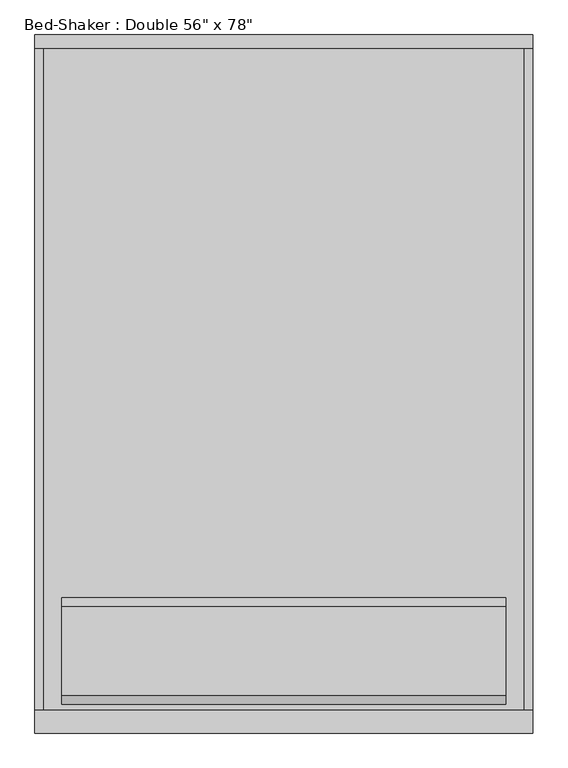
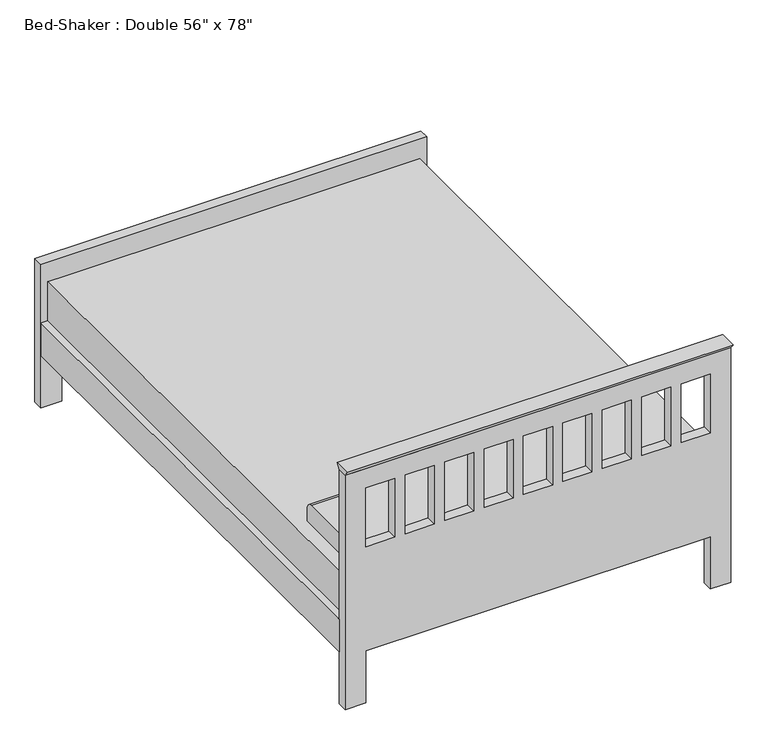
"""IFC4 building model written with IfcOpenShell, lengths in millimetres: furniture geometry."""

from ifc_helpers import new_model, si_unit, point, frame, frame_2d, origin, place, context, project, spatial, polyline, circle_curve, trimmed, segment, composite_curve, outline, extrude, source, transform, mapped, element, save


def furniture_097b173b(model_context):
    return source(origin(), model_context, "Body", "SweptSolid", [
        extrude(outline(polyline([(38.1, 914.4), (0.0, 914.4), (-13.8545455, 933.45), (51.9545455, 933.45), (38.1, 914.4)])), frame((-730.0365546, 0.0, 0.0), z_axis=(1.0, 0.0, 0.0), x_axis=(0.0, 1.0, 0.0)), (0.0, 0.0, 1.0), 1422.4533613),
        extrude(outline(composite_curve([segment(polyline([(373.2486637, 482.6), (68.4486637, 482.6), (68.4486637, 533.4)]), True, "CONTINUOUS"), segment(trimmed(circle_curve(frame_2d((93.8486637, 533.4)), 25.4), [point((68.4486637, 533.4))], [point((93.8486637, 558.8))], False, "CARTESIAN"), True, "CONTINUOUS"), segment(polyline([(93.8486637, 558.8), (347.8486637, 558.8)]), True, "CONTINUOUS"), segment(trimmed(circle_curve(frame_2d((347.8486637, 533.4)), 25.4), [point((347.8486637, 558.8))], [point((373.2486637, 533.4))], False, "CARTESIAN"), True, "CONTINUOUS"), segment(polyline([(373.2486637, 533.4), (373.2486637, 482.6)]), True, "CONTINUOUS")], self_intersect=False)), frame((-654.05, 0.0, 0.0), z_axis=(1.0, 0.0, 0.0), x_axis=(0.0, 1.0, 0.0)), (0.0, 0.0, 1.0), 1270.0),
        extrude(outline(polyline([(666.75, 38.1), (-704.85, 38.1), (-704.85, 1943.1), (666.75, 1943.1), (666.75, 38.1)])), frame((0.0, 0.0, 228.6), z_axis=(0.0, 0.0, 1.0), x_axis=(1.0, 0.0, 0.0)), (0.0, 0.0, 1.0), 254.0),
        extrude(outline(polyline([(666.75, 1943.1), (692.15, 1943.1), (692.15, 38.1), (666.75, 38.1), (666.75, 1943.1)])), frame((0.0, 0.0, 203.0994861), z_axis=(0.0, 0.0, 1.0), x_axis=(1.0, 0.0, 0.0)), (0.0, 0.0, 1.0), 127.0),
        extrude(outline(polyline([(-730.25, 1943.1), (-704.85, 1943.1), (-704.85, 38.1), (-730.25, 38.1), (-730.25, 1943.1)])), frame((0.0, 0.0, 203.5755296), z_axis=(0.0, 0.0, 1.0), x_axis=(1.0, 0.0, 0.0)), (0.0, 0.0, 1.0), 127.0),
        extrude(outline(polyline([(0.0, -654.05), (203.2, -654.05), (203.2, 615.95), (0.0, 615.95), (0.0, 692.15), (558.8, 692.15), (558.8, -730.25), (0.0, -730.25), (0.0, -654.05)])), frame((0.0, 1943.1, 0.0), z_axis=(0.0, 1.0, 0.0), x_axis=(0.0, 0.0, 1.0)), (0.0, 0.0, 1.0), 38.1),
        extrude(outline(polyline([(914.4, 692.4168067), (914.4, -730.0365546), (0.0, -730.0365546), (0.0, -654.05), (203.2, -654.05), (203.2, 615.95), (0.0, 615.95), (0.0, 692.4168067), (914.4, 692.4168067)]), holes=[polyline([(838.2, -546.8055556), (609.6, -546.8055556), (609.6, -654.05), (838.2, -654.05), (838.2, -546.8055556)]), polyline([(838.2, -401.4611111), (609.6, -401.4611111), (609.6, -508.7055556), (838.2, -508.7055556), (838.2, -401.4611111)]), polyline([(838.2, -256.1166667), (609.6, -256.1166667), (609.6, -363.3611111), (838.2, -363.3611111), (838.2, -256.1166667)]), polyline([(838.2, -110.7722222), (609.6, -110.7722222), (609.6, -218.0166667), (838.2, -218.0166667), (838.2, -110.7722222)]), polyline([(838.2, 179.9166667), (609.6, 179.9166667), (609.6, 72.6722222), (838.2, 72.6722222), (838.2, 179.9166667)]), polyline([(838.2, 325.2611111), (609.6, 325.2611111), (609.6, 218.0166667), (838.2, 218.0166667), (838.2, 325.2611111)]), polyline([(838.2, 470.6055556), (609.6, 470.6055556), (609.6, 363.3611111), (838.2, 363.3611111), (838.2, 470.6055556)]), polyline([(838.2, 615.95), (609.6, 615.95), (609.6, 508.7055556), (838.2, 508.7055556), (838.2, 615.95)]), polyline([(838.2, 34.5722222), (609.6, 34.5722222), (609.6, -72.6722222), (838.2, -72.6722222), (838.2, 34.5722222)])]), frame((0.0, 0.0, 0.0), z_axis=(0.0, 1.0, 0.0), x_axis=(0.0, 0.0, 1.0)), (0.0, 0.0, 1.0), 38.1),
    ])


if __name__ == "__main__":
    model = new_model("IFC4")
    model_context = context("Model", 3, world=origin())
    ifc_project = project(units=[si_unit("LENGTHUNIT", "METRE", prefix="MILLI")], contexts=[model_context])
    site = spatial("IfcSite", under=ifc_project)
    building = spatial("IfcBuilding", under=site)
    placement = place(None, origin())
    furniture_shape = furniture_097b173b(model_context)
    element("IfcFurniture", 1, ObjectType="Bed-Shaker : Double 56\" x 78\"", at=placement, inside=building, context=model_context, shape_type="MappedRepresentation", body=[
        mapped(furniture_shape, transform((0.0, 0.0, 0.0), x_axis=(1.0, 0.0, 0.0), y_axis=(0.0, 1.0, 0.0), z_axis=(0.0, 0.0, 1.0))),
    ])
    save(model, "model.ifc")
